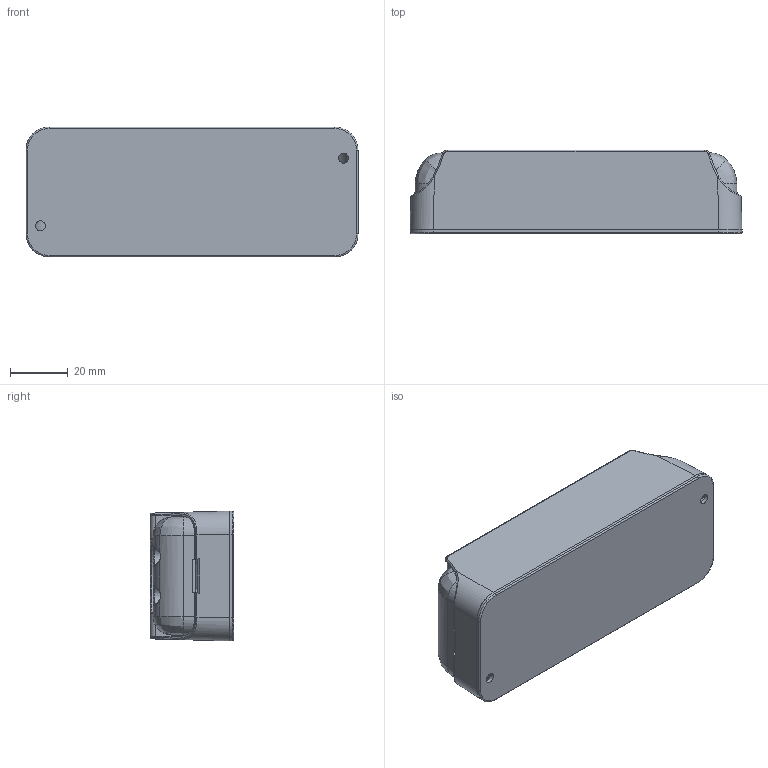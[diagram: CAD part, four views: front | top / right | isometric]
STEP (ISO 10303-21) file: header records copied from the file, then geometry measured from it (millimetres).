
FILE_DESCRIPTION((''),'2;1');
FILE_NAME('HOUSING_EUCI035XXXFA_ASM','2016-12-21T',('JACKY.LEE'),(''),'PRO/ENGINEER BY PARAMETRIC TECHNOLOGY CORPORATION, 2009440','PRO/ENGINEER BY PARAMETRIC TECHNOLOGY CORPORATION, 2009440','');
FILE_SCHEMA(('CONFIG_CONTROL_DESIGN'));
Length unit declared in the file: millimetre
Products named in the file (9): COVER_EUCI035XXXFA; BASE_EUCI035XXXFA; CLAMP_EUCI035XXXFA; T_SCREW_PAN-T3-14L-NI; LABEL; PCB_EUCI035XXXFA; WAGO_SERIE250_2_ANY; PWB-ASSY_ASM; HOUSING_EUCI035XXXFA_ASM
Assembly tree (13 placements, depth 3):
  HOUSING_EUCI035XXXFA_ASM
    COVER_EUCI035XXXFA
    BASE_EUCI035XXXFA
    CLAMP_EUCI035XXXFA  x2
    T_SCREW_PAN-T3-14L-NI  x4
    LABEL
    PWB-ASSY_ASM
      PCB_EUCI035XXXFA
      WAGO_SERIE250_2_ANY  x2
Bounding box: 115 x 29 x 45 mm (x, y, z)
Volume: 38883.7 mm3; surface area: 63000.8 mm2
Topology: 12 solids, 12 shells, 1036 faces, 2788 edges, 1800 vertices
Faces by surface type: plane 486, cylinder 250, cone 148, bspline 108, torus 40, extrusion 4
Entity records: 27759 total; most frequent: CARTESIAN_POINT 10321, ORIENTED_EDGE 3812, DIRECTION 3316, EDGE_CURVE 1906, VERTEX_POINT 1223, VECTOR 1108, LINE 1104, AXIS2_PLACEMENT_3D 1104
